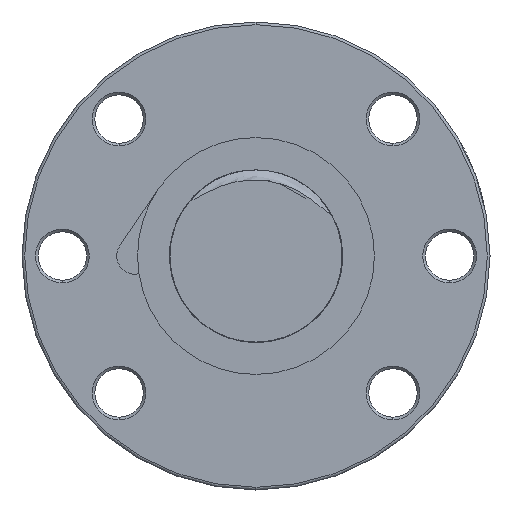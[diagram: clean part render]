
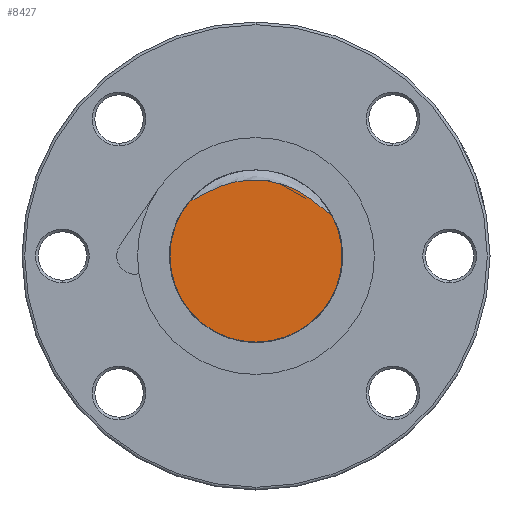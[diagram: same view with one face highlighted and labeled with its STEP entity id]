
A CAD part, left-side view. The second image highlights one B-rep face of the part: STEP entity #8427.
In plain terms, the highlighted planar face has unit normal (-1, 0, 0).
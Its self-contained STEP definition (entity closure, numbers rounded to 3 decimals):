
#4402 = CARTESIAN_POINT ( 'NONE',  ( -296., 0.928, 14.133 ) ) ;
#4403 = CARTESIAN_POINT ( 'NONE',  ( -296., -0.282, 14.135 ) ) ;
#4404 = CARTESIAN_POINT ( 'NONE',  ( -296., -0.885, 14.104 ) ) ;
#4405 = CARTESIAN_POINT ( 'NONE',  ( -296., -2.085, 13.977 ) ) ;
#4406 = CARTESIAN_POINT ( 'NONE',  ( -296., -2.683, 13.881 ) ) ;
#4407 = CARTESIAN_POINT ( 'NONE',  ( -296., -3.872, 13.625 ) ) ;
#4408 = CARTESIAN_POINT ( 'NONE',  ( -296., -4.467, 13.463 ) ) ;
#4409 = CARTESIAN_POINT ( 'NONE',  ( -296., -6.2, 12.89 ) ) ;
#4410 = CARTESIAN_POINT ( 'NONE',  ( -296., -7.3, 12.391 ) ) ;
#4411 = CARTESIAN_POINT ( 'NONE',  ( -296., -8.875, 11.489 ) ) ;
#4412 = CARTESIAN_POINT ( 'NONE',  ( -296., -9.388, 11.162 ) ) ;
#4413 = CARTESIAN_POINT ( 'NONE',  ( -296., -10.391, 10.46 ) ) ;
#4414 = CARTESIAN_POINT ( 'NONE',  ( -296., -10.876, 10.088 ) ) ;
#4415 = CARTESIAN_POINT ( 'NONE',  ( -296., -11.822, 9.315 ) ) ;
#4416 = CARTESIAN_POINT ( 'NONE',  ( -296., -12.282, 8.913 ) ) ;
#4417 = CARTESIAN_POINT ( 'NONE',  ( -296., -12.974, 8.312 ) ) ;
#4418 = CARTESIAN_POINT ( 'NONE',  ( -296., -13.204, 8.112 ) ) ;
#4419 = CARTESIAN_POINT ( 'NONE',  ( -296., -13.56, 7.823 ) ) ;
#4420 = CARTESIAN_POINT ( 'NONE',  ( -296., -13.68, 7.729 ) ) ;
#4421 = CARTESIAN_POINT ( 'NONE',  ( -296., -13.927, 7.551 ) ) ;
#4422 = CARTESIAN_POINT ( 'NONE',  ( -296., -14.053, 7.467 ) ) ;
#4423 = CARTESIAN_POINT ( 'NONE',  ( -296., -14.188, 7.395 ) ) ;
#4424 = B_SPLINE_CURVE_WITH_KNOTS ( 'NONE', 3,
 ( #4423, #4422, #4421, #4420, #4419, #4418, #4417, #4416, #4415, #4414, #4413, #4412, #4411, #4410, #4409, #4408, #4407, #4406, #4405, #4404, #4403, #4402, #4477, #4476, #4475, #4474, #4473, #4472, #4471, #4470, #4469, #4468, #4467, #4466, #4465, #4464, #4463, #4462 ),
 .UNSPECIFIED., .F., .F.,
 ( 4, 2, 2, 2, 2, 2, 2, 2, 2, 2, 2, 2, 2, 2, 2, 2, 2, 2, 4 ),
 ( 0.012, 0.012, 0.013, 0.013, 0.015, 0.017, 0.019, 0.023, 0.024, 0.026, 0.028, 0.03, 0.033, 0.035, 0.037, 0.039, 0.04, 0.04, 0.041 ),
 .UNSPECIFIED. ) ;
#4427 = DIRECTION ( 'NONE',  ( 0., 0., -1. ) ) ;
#4428 = DIRECTION ( 'NONE',  ( 1., 0., 0. ) ) ;
#4429 = CARTESIAN_POINT ( 'NONE',  ( -296., 0., 0. ) ) ;
#4430 = AXIS2_PLACEMENT_3D ( 'NONE', #4429, #4428, #4427 ) ;
#4431 = PLANE ( 'NONE',  #4430 ) ;
#4436 = FACE_OUTER_BOUND ( 'NONE', #7793, .T. ) ;
#4462 = CARTESIAN_POINT ( 'NONE',  ( -296., 12.341, 10.184 ) ) ;
#4463 = CARTESIAN_POINT ( 'NONE',  ( -296., 12.193, 10.225 ) ) ;
#4464 = CARTESIAN_POINT ( 'NONE',  ( -296., 12.051, 10.282 ) ) ;
#4465 = CARTESIAN_POINT ( 'NONE',  ( -296., 11.771, 10.405 ) ) ;
#4466 = CARTESIAN_POINT ( 'NONE',  ( -296., 11.633, 10.473 ) ) ;
#4467 = CARTESIAN_POINT ( 'NONE',  ( -296., 11.225, 10.682 ) ) ;
#4468 = CARTESIAN_POINT ( 'NONE',  ( -296., 10.957, 10.83 ) ) ;
#4469 = CARTESIAN_POINT ( 'NONE',  ( -296., 10.155, 11.276 ) ) ;
#4470 = CARTESIAN_POINT ( 'NONE',  ( -296., 9.62, 11.574 ) ) ;
#4471 = CARTESIAN_POINT ( 'NONE',  ( -296., 8.533, 12.133 ) ) ;
#4472 = CARTESIAN_POINT ( 'NONE',  ( -296., 7.98, 12.396 ) ) ;
#4473 = CARTESIAN_POINT ( 'NONE',  ( -296., 6.853, 12.873 ) ) ;
#4474 = CARTESIAN_POINT ( 'NONE',  ( -296., 6.283, 13.086 ) ) ;
#4475 = CARTESIAN_POINT ( 'NONE',  ( -296., 4.55, 13.643 ) ) ;
#4476 = CARTESIAN_POINT ( 'NONE',  ( -296., 3.365, 13.902 ) ) ;
#4477 = CARTESIAN_POINT ( 'NONE',  ( -296., 1.537, 14.1 ) ) ;
#4834 = CARTESIAN_POINT ( 'NONE',  ( -296., -14.188, 7.395 ) ) ;
#6946 = VERTEX_POINT ( 'NONE', #25039 ) ;
#6979 = VERTEX_POINT ( 'NONE', #25175 ) ;
#6986 = EDGE_CURVE ( 'NONE', #6979, #6946, #25197, .T. ) ;
#7793 = EDGE_LOOP ( 'NONE', ( #8429, #8431, #8435 ) ) ;
#8324 = EDGE_CURVE ( 'NONE', #8471, #6979, #28238, .T. ) ;
#8427 = ADVANCED_FACE ( 'NONE', ( #4436 ), #4431, .F. ) ;
#8429 = ORIENTED_EDGE ( 'NONE', *, *, #8324, .F. ) ;
#8431 = ORIENTED_EDGE ( 'NONE', *, *, #8433, .T. ) ;
#8433 = EDGE_CURVE ( 'NONE', #8471, #6946, #4424, .T. ) ;
#8435 = ORIENTED_EDGE ( 'NONE', *, *, #6986, .F. ) ;
#8471 = VERTEX_POINT ( 'NONE', #4834 ) ;
#25039 = CARTESIAN_POINT ( 'NONE',  ( -296., 12.341, 10.184 ) ) ;
#25175 = CARTESIAN_POINT ( 'NONE',  ( -296., 0., -16. ) ) ;
#25194 = DIRECTION ( 'NONE',  ( 0., 1., 0. ) ) ;
#25195 = DIRECTION ( 'NONE',  ( 1., 0., 0. ) ) ;
#25196 = AXIS2_PLACEMENT_3D ( 'NONE', #25202, #25195, #25194 ) ;
#25197 = CIRCLE ( 'NONE', #25196, 16. ) ;
#25202 = CARTESIAN_POINT ( 'NONE',  ( -296., 0., 0. ) ) ;
#28230 = DIRECTION ( 'NONE',  ( 0., 1., 0. ) ) ;
#28231 = DIRECTION ( 'NONE',  ( 1., 0., 0. ) ) ;
#28232 = CARTESIAN_POINT ( 'NONE',  ( -296., 0., 0. ) ) ;
#28233 = AXIS2_PLACEMENT_3D ( 'NONE', #28232, #28231, #28230 ) ;
#28238 = CIRCLE ( 'NONE', #28233, 16. ) ;
